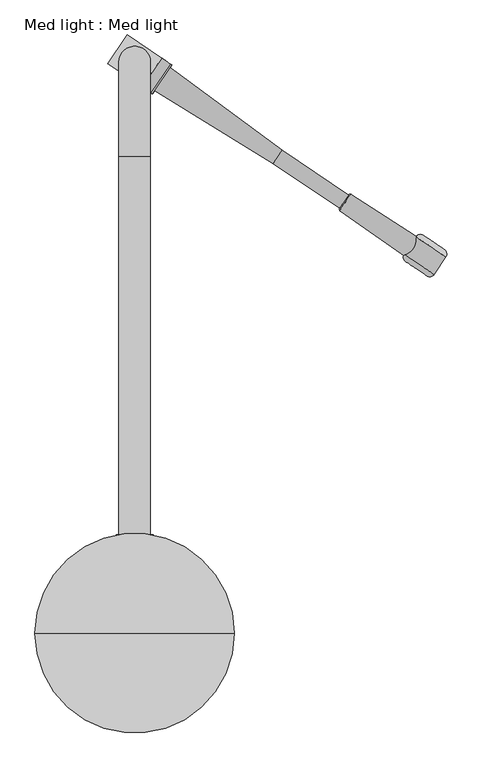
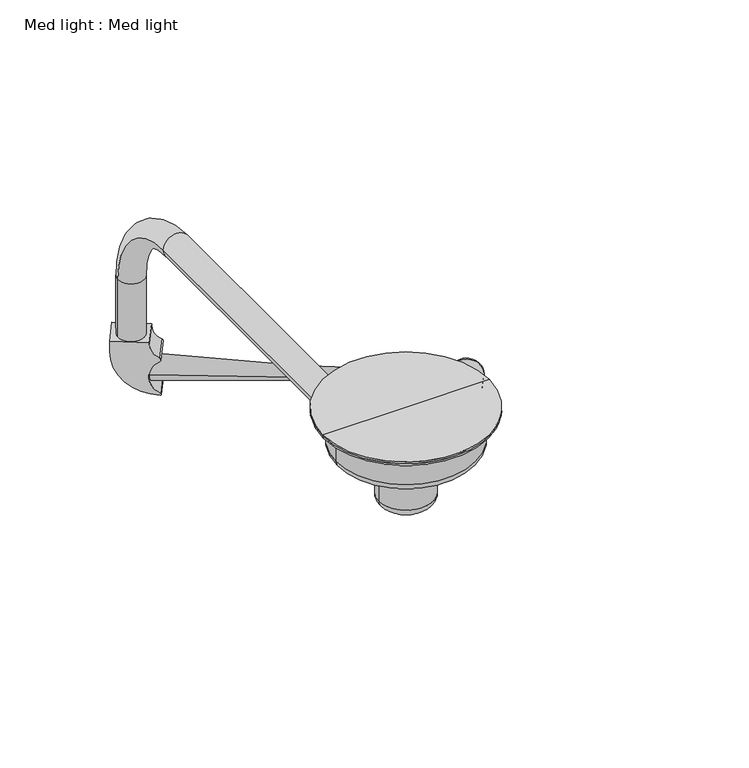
"""IFC4 building model written with IfcOpenShell, lengths in millimetres: proxy geometry, Med light : Med light."""

from ifc_helpers import new_model, si_unit, point, frame, frame_2d, origin, place, context, project, spatial, polyline, circle_curve, ellipse_curve, trimmed, segment, composite_curve, outline, extrude, source, transform, mapped, element, save
from ifc_brep_helpers import plane_surface, cylinder_surface, revolved_surface, advanced_brep


def med_light_med_light_51e73a2f(model_context):
    return source(origin(), model_context, "Body", "SolidModel", [
        advanced_brep(
        [(42.3755143, 1356.5608413, 1610.4103579), (62.0310935, 1385.7014358, 1610.4103579), (22.7199352, 1327.4202467, 1610.4103579), (680.2173635, 891.7765902, 1610.4103579), (712.2557301, 939.2754219, 1610.4103579), (696.2365468, 915.5260061, 1610.4103579), (495.4473123, 1022.020271, 1610.4103579), (522.2798126, 1061.8010887, 1610.4103579), (495.1555922, 1026.3891014, 1610.4103579), (518.1198233, 1060.4349741, 1610.4103579), (495.77199, 1027.3029487, 1610.4103579), (517.5034256, 1059.5211268, 1610.4103579), (335.0237873, 1135.7289805, 1610.4103579), (356.7552228, 1167.9471586, 1610.4103579)],
        [
            (0, 1),
            (1, 2, circle_curve(frame((42.3755143, 1356.5608413, 1610.4103579), z_axis=(-0.8290375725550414, 0.5591929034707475, 0.0), x_axis=(0.5591929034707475, 0.8290375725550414, 0.0)), 35.1499082)),
            (2, 0),
            (2, 1, circle_curve(frame((42.3755143, 1356.5608413, 1610.4103579), z_axis=(-0.8290375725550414, 0.5591929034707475, 0.0), x_axis=(0.5591929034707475, 0.8290375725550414, 0.0)), 35.1499082)),
            (3, 4, circle_curve(frame((696.2365468, 915.5260061, 1610.4103579), z_axis=(0.8290375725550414, -0.5591929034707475, 0.0), x_axis=(0.5591929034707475, 0.8290375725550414, 0.0)), 28.6469717)),
            (4, 5),
            (5, 3),
            (4, 3, circle_curve(frame((696.2365468, 915.5260061, 1610.4103579), z_axis=(0.8290375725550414, -0.5591929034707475, 0.0), x_axis=(0.5591929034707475, 0.8290375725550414, 0.0)), 28.6469717)),
            (6, 7, circle_curve(frame((508.8635624, 1041.9106798, 1610.4103579), z_axis=(0.8290375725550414, -0.5591929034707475, 0.0), x_axis=(0.5591929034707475, 0.8290375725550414, 0.0)), 23.9921681)),
            (7, 4),
            (3, 6),
            (7, 6, circle_curve(frame((508.8635624, 1041.9106798, 1610.4103579), z_axis=(0.8290375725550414, -0.5591929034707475, 0.0), x_axis=(0.5591929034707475, 0.8290375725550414, 0.0)), 23.9921681)),
            (8, 9, circle_curve(frame((506.6377078, 1043.4120377, 1610.4103579), z_axis=(0.8290375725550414, -0.5591929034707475, 0.0), x_axis=(0.5591929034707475, 0.8290375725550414, 0.0)), 20.5333714)),
            (9, 7),
            (6, 8),
            (9, 8, circle_curve(frame((506.6377078, 1043.4120377, 1610.4103579), z_axis=(0.8290375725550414, -0.5591929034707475, 0.0), x_axis=(0.5591929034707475, 0.8290375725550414, 0.0)), 20.5333714)),
            (10, 11, circle_curve(frame((506.6377078, 1043.4120377, 1610.4103579), z_axis=(0.8290375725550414, -0.5591929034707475, 0.0), x_axis=(0.5591929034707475, 0.8290375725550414, 0.0)), 19.4310723)),
            (11, 9),
            (8, 10),
            (11, 10, circle_curve(frame((506.6377078, 1043.4120377, 1610.4103579), z_axis=(0.8290375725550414, -0.5591929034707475, 0.0), x_axis=(0.5591929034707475, 0.8290375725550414, 0.0)), 19.4310723)),
            (12, 13, circle_curve(frame((345.889505, 1151.8380696, 1610.4103579), z_axis=(0.8290375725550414, -0.5591929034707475, 0.0), x_axis=(0.5591929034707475, 0.8290375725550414, 0.0)), 19.4310723)),
            (13, 11),
            (10, 12),
            (13, 12, circle_curve(frame((345.889505, 1151.8380696, 1610.4103579), z_axis=(0.8290375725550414, -0.5591929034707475, 0.0), x_axis=(0.5591929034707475, 0.8290375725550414, 0.0)), 19.4310723)),
            (1, 13),
            (12, 2),
        ],
        [
            plane_surface(frame((42.3755143, 1356.5608413, 1610.4103579), z_axis=(-0.8290375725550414, 0.5591929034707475, 0.0), x_axis=(0.5591929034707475, 0.8290375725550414, 0.0))),
            plane_surface(frame((696.2365468, 915.5260061, 1610.4103579), z_axis=(0.8290375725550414, -0.5591929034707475, 0.0), x_axis=(0.5591929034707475, 0.8290375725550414, 0.0))),
            revolved_surface(polyline([(712.2557301, 939.2754219, 1610.4103579), (522.2798126, 1061.8010887, 1610.4103579)]), (697.1352927, 914.9197943, 1610.4103579), (-0.8290375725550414, 0.5591929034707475, 0.0)),
            revolved_surface(polyline([(522.2798126, 1061.8010887, 1610.4103579), (518.1198233, 1060.4349741, 1610.4103579)]), (697.1352927, 914.9197943, 1610.4103579), (-0.8290375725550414, 0.5591929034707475, 0.0)),
            plane_surface(frame((506.6377078, 1043.4120377, 1610.4103579), z_axis=(-0.8290375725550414, 0.5591929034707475, 0.0), x_axis=(0.5591929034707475, 0.8290375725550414, 0.0))),
            cylinder_surface(frame((697.1352927, 914.9197943, 1610.4103579), z_axis=(-0.8290375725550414, 0.5591929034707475, 0.0), x_axis=(0.5591929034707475, 0.8290375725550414, 0.0)), 19.4310723),
            revolved_surface(polyline([(356.7552228, 1167.9471586, 1610.4103579), (62.0310935, 1385.7014358, 1610.4103579)]), (697.1352927, 914.9197943, 1610.4103579), (-0.8290375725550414, 0.5591929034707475, 0.0)),
        ],
        [
            (0, [[1, 2, 3]]),
            (0, [[-3, 4, -1]]),
            (1, [[5, 6, 7]]),
            (1, [[8, -7, -6]]),
            (2, [[9, 10, -5, 11]]),
            (2, [[12, -11, -8, -10]]),
            (3, [[13, 14, -9, 15]]),
            (3, [[16, -15, -12, -14]]),
            (4, [[17, 18, -13, 19]]),
            (4, [[20, -19, -16, -18]]),
            (5, [[21, 22, -17, 23]]),
            (5, [[24, -23, -20, -22]]),
            (6, [[-2, 25, -21, 26]]),
            (6, [[-4, -26, -24, -25]]),
        ],
    ),
        advanced_brep(
        [(680.8592519, 881.6679198, 1610.4103579), (655.1953575, 898.9784351, 1610.4103579), (706.5231462, 864.3574045, 1610.4103579), (749.1336455, 927.5300675, 1610.4103579), (697.8058568, 962.1510982, 1610.4103579), (723.4697511, 944.8405829, 1610.4103579), (752.5606728, 909.8995405, 1610.4103579), (680.1753297, 958.7240709, 1610.4103579), (724.1536733, 867.7844318, 1610.4103579), (651.7683302, 916.6089622, 1610.4103579)],
        [
            (0, 1),
            (1, 2, circle_curve(frame((680.8592519, 881.6679198, 1610.4103579), z_axis=(-0.5591929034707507, -0.8290375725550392, 0.0), x_axis=(-0.8290375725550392, 0.5591929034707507, 0.0)), 30.95625)),
            (2, 0),
            (2, 1, circle_curve(frame((680.8592519, 881.6679198, 1610.4103579), z_axis=(-0.5591929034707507, -0.8290375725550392, 0.0), x_axis=(-0.8290375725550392, 0.5591929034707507, 0.0)), 30.95625)),
            (3, 4, circle_curve(frame((723.4697511, 944.8405829, 1610.4103579), z_axis=(0.5591929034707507, 0.8290375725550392, 0.0), x_axis=(-0.8290375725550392, 0.5591929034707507, 0.0)), 30.95625)),
            (4, 5),
            (5, 3),
            (4, 3, circle_curve(frame((723.4697511, 944.8405829, 1610.4103579), z_axis=(0.5591929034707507, 0.8290375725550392, 0.0), x_axis=(-0.8290375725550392, 0.5591929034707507, 0.0)), 30.95625)),
            (6, 7, circle_curve(frame((716.3680013, 934.3118057, 1610.4103579), z_axis=(0.5591929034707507, 0.8290375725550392, 0.0), x_axis=(-0.8290375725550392, 0.5591929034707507, 0.0)), 43.65625)),
            (7, 4, circle_curve(frame((690.7041069, 951.622321, 1610.4103579), z_axis=(0.0, 0.0, -1.0), x_axis=(0.5591929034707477, 0.8290375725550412, 0.0)), 12.7)),
            (3, 6, circle_curve(frame((742.0318956, 917.0012904, 1610.4103579), z_axis=(0.0, 0.0, -1.0), x_axis=(0.5591929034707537, 0.8290375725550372, 0.0)), 12.7)),
            (7, 6, circle_curve(frame((716.3680013, 934.3118057, 1610.4103579), z_axis=(0.5591929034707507, 0.8290375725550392, 0.0), x_axis=(-0.8290375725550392, 0.5591929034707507, 0.0)), 43.65625)),
            (8, 9, circle_curve(frame((687.9610018, 892.196697, 1610.4103579), z_axis=(0.5591929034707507, 0.8290375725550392, 0.0), x_axis=(-0.8290375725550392, 0.5591929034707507, 0.0)), 43.65625)),
            (9, 7),
            (6, 8),
            (9, 8, circle_curve(frame((687.9610018, 892.196697, 1610.4103579), z_axis=(0.5591929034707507, 0.8290375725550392, 0.0), x_axis=(-0.8290375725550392, 0.5591929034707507, 0.0)), 43.65625)),
            (1, 9, circle_curve(frame((662.2971074, 909.5072123, 1610.4103579), z_axis=(0.0, 0.0, -1.0), x_axis=(0.5591929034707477, 0.8290375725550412, 0.0)), 12.7)),
            (8, 2, circle_curve(frame((713.6248961, 874.8861817, 1610.4103579), z_axis=(0.0, 0.0, -1.0), x_axis=(0.5591929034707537, 0.8290375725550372, 0.0)), 12.7)),
        ],
        [
            plane_surface(frame((680.8592519, 881.6679198, 1610.4103579), z_axis=(-0.5591929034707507, -0.8290375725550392, 0.0), x_axis=(-0.8290375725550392, 0.5591929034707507, 0.0))),
            plane_surface(frame((723.4697511, 944.8405829, 1610.4103579), z_axis=(0.5591929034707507, 0.8290375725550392, 0.0), x_axis=(-0.8290375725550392, 0.5591929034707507, 0.0))),
            revolved_surface(trimmed(ellipse_curve(frame((690.7041069, 951.622321, 1610.4103579), z_axis=(0.0, 0.0, 1.0), x_axis=(0.5591929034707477, 0.8290375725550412, 0.0)), 12.7, 12.7), [point((697.8058568, 962.1510982, 1610.4103579))], [point((680.1753297, 958.7240709, 1610.4103579))], True, "CARTESIAN"), (680.8592519, 881.6679198, 1610.4103579), (-0.5591929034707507, -0.8290375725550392, 0.0)),
            cylinder_surface(frame((680.8592519, 881.6679198, 1610.4103579), z_axis=(-0.5591929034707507, -0.8290375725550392, 0.0), x_axis=(-0.8290375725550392, 0.5591929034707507, 0.0)), 43.65625),
            revolved_surface(trimmed(ellipse_curve(frame((662.2971074, 909.5072123, 1610.4103579), z_axis=(0.0, 0.0, 1.0), x_axis=(0.5591929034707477, 0.8290375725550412, 0.0)), 12.7, 12.7), [point((651.7683302, 916.6089622, 1610.4103579))], [point((655.1953575, 898.9784351, 1610.4103579))], True, "CARTESIAN"), (680.8592519, 881.6679198, 1610.4103579), (-0.5591929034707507, -0.8290375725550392, 0.0)),
        ],
        [
            (0, [[1, 2, 3]]),
            (0, [[-3, 4, -1]]),
            (1, [[5, 6, 7]]),
            (1, [[8, -7, -6]]),
            (2, [[9, 10, -5, 11]]),
            (2, [[12, -11, -8, -10]]),
            (3, [[13, 14, -9, 15]]),
            (3, [[16, -15, -12, -14]]),
            (4, [[-2, 17, -13, 18]]),
            (4, [[-4, -18, -16, -17]]),
        ],
    ),
        extrude(outline(composite_curve([segment(polyline([(0.0, 88.9), (-4.9023655, 88.9), (-4.9023655, 189.4110984), (26.8476345, 189.4110984)]), True, "CONTINUOUS"), segment(trimmed(circle_curve(frame_2d((26.8476345, 62.4110984)), 127.0), [point((26.8476345, 189.4110984))], [point((153.8471224, 62.0504532))], False, "CARTESIAN"), True, "CONTINUOUS"), segment(trimmed(circle_curve(frame_2d((150.6647335, 62.107545)), 3.182901), [point((153.8471224, 62.0504532))], [point((147.8287015, 60.6626293))], False, "CARTESIAN"), True, "CONTINUOUS"), segment(trimmed(circle_curve(frame_2d((98.8999916, 35.7341867)), 54.9130759), [point((147.8287015, 60.6626293))], [point((51.3364528, 63.1778687))], True, "CARTESIAN"), True, "CONTINUOUS"), segment(trimmed(circle_curve(frame_2d((45.8363334, 66.3513821)), 6.35), [point((51.3364528, 63.1778687))], [point((40.1067917, 63.6137093))], False, "CARTESIAN"), True, "CONTINUOUS"), segment(trimmed(circle_curve(frame_2d((0.0, 44.45)), 44.45), [point((40.1067917, 63.6137093))], [point((0.0, 88.9))], True, "CARTESIAN"), True, "CONTINUOUS")], self_intersect=False)), frame((92.0787367, 1271.269771, 1709.0288263), z_axis=(0.5591929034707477, 0.8290375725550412, 0.0), x_axis=(0.0, 0.0, -1.0)), (0.0, 0.0, 1.0), 83.9681961),
        extrude(outline(composite_curve([segment(trimmed(circle_curve(frame_2d((2120.3311918, 0.0)), 44.45), [point((2120.3311918, 44.45))], [point((2120.3311918, -44.45))], False, "CARTESIAN"), True, "CONTINUOUS"), segment(trimmed(circle_curve(frame_2d((2120.3311918, 0.0)), 44.45), [point((2120.3311918, -44.45))], [point((2120.3311918, 44.45))], False, "CARTESIAN"), True, "CONTINUOUS")], self_intersect=False)), frame((0.0, 47.6748825, 0.0), z_axis=(0.0, 1.0, 0.0), x_axis=(0.0, 0.0, 1.0)), (0.0, 0.0, 1.0), 190.5),
        advanced_brep(
        [(38.1, 85.7733272, 2120.3311918), (-38.1, 85.7733272, 2120.3311918), (38.1, 1152.5733272, 2120.3311918), (-38.1, 1152.5733272, 2120.3311918), (-38.1, 1381.1733272, 1891.7311918), (38.1, 1381.1733272, 1891.7311918), (38.1, 1381.1733272, 1713.9311918), (-38.1, 1381.1733272, 1713.9311918)],
        [
            (0, 1, circle_curve(frame((0.0, 85.7733272, 2120.3311918), z_axis=(0.0, -1.0, 0.0), x_axis=(-1.0, 0.0, 0.0)), 38.1)),
            (1, 0, circle_curve(frame((0.0, 85.7733272, 2120.3311918), z_axis=(0.0, -1.0, 0.0), x_axis=(-1.0, 0.0, 0.0)), 38.1)),
            (0, 2),
            (2, 3, circle_curve(frame((0.0, 1152.5733272, 2120.3311918), z_axis=(0.0, -1.0, 0.0), x_axis=(-1.0, 0.0, 0.0)), 38.1)),
            (3, 1),
            (3, 2, circle_curve(frame((0.0, 1152.5733272, 2120.3311918), z_axis=(0.0, -1.0, 0.0), x_axis=(-1.0, 0.0, 0.0)), 38.1)),
            (4, 3, circle_curve(frame((-38.1, 1152.5733272, 1891.7311918), z_axis=(1.0, 0.0, 0.0), x_axis=(0.0, 0.0, 1.0)), 228.6)),
            (2, 5, circle_curve(frame((38.1, 1152.5733272, 1891.7311918), z_axis=(-1.0, 0.0, 0.0), x_axis=(0.0, 0.0, 1.0)), 228.6)),
            (5, 4, circle_curve(frame((0.0, 1381.1733272, 1891.7311918), z_axis=(0.0, 0.0, 1.0), x_axis=(-1.0, 0.0, 0.0)), 38.1)),
            (4, 5, circle_curve(frame((0.0, 1381.1733272, 1891.7311918), z_axis=(0.0, 0.0, 1.0), x_axis=(-1.0, 0.0, 0.0)), 38.1)),
            (6, 7, circle_curve(frame((0.0, 1381.1733272, 1713.9311918), z_axis=(0.0, 0.0, -1.0), x_axis=(-1.0, 0.0, 0.0)), 38.1)),
            (7, 6, circle_curve(frame((0.0, 1381.1733272, 1713.9311918), z_axis=(0.0, 0.0, -1.0), x_axis=(-1.0, 0.0, 0.0)), 38.1)),
            (5, 6),
            (7, 4),
        ],
        [
            plane_surface(frame((0.0, 85.7733272, 2120.3311918), z_axis=(0.0, -1.0, 0.0), x_axis=(1.0, 0.0, 0.0))),
            cylinder_surface(frame((0.0, 85.7733272, 2120.3311918), z_axis=(0.0, -1.0, 0.0), x_axis=(-1.0, 0.0, 0.0)), 38.1),
            revolved_surface(trimmed(ellipse_curve(frame((0.0, 1152.5733272, 2120.3311918), z_axis=(0.0, -1.0, 0.0), x_axis=(-1.0, 0.0, 0.0)), 38.1, 38.1), [point((38.1, 1152.5733272, 2120.3311918))], [point((-38.1, 1152.5733272, 2120.3311918))], True, "CARTESIAN"), (0.0, 1152.5733272, 1891.7311918), (-1.0, 0.0, 0.0)),
            revolved_surface(trimmed(ellipse_curve(frame((0.0, 1152.5733272, 2120.3311918), z_axis=(0.0, -1.0, 0.0), x_axis=(-1.0, 0.0, 0.0)), 38.1, 38.1), [point((-38.1, 1152.5733272, 2120.3311918))], [point((38.1, 1152.5733272, 2120.3311918))], True, "CARTESIAN"), (0.0, 1152.5733272, 1891.7311918), (-1.0, 0.0, 0.0)),
            plane_surface(frame((0.0, 1381.1733272, 1713.9311918), z_axis=(0.0, 0.0, -1.0), x_axis=(1.0, 0.0, 0.0))),
            cylinder_surface(frame((0.0, 1381.1733272, 1891.7311918), z_axis=(0.0, 0.0, 1.0), x_axis=(-1.0, 0.0, 0.0)), 38.1),
        ],
        [
            (0, [[1, 2]]),
            (1, [[-1, 3, 4, 5]]),
            (1, [[-2, -5, 6, -3]]),
            (2, [[7, -4, 8, 9]]),
            (3, [[-8, -6, -7, 10]]),
            (4, [[11, 12]]),
            (5, [[-9, 13, -12, 14]]),
            (5, [[-10, -14, -11, -13]]),
        ],
    ),
        advanced_brep(
        [(0.0, 0.0, 2324.6786024), (241.3, 0.0, 2324.6786024), (-241.3, 0.0, 2324.6786024), (-52.6505679, 0.0, 2037.0230593), (52.6505679, 0.0, 2037.0230593), (0.0, 0.0, 2037.0230593), (-79.375, 0.0, 2063.7474915), (79.375, 0.0, 2063.7474915), (-79.375, 0.0, 2191.3286024), (79.375, 0.0, 2191.3286024), (-92.075, 0.0, 2204.0286024), (92.075, 0.0, 2204.0286024), (-178.3406234, 0.0, 2204.0286024), (178.3406234, 0.0, 2204.0286024), (-203.2, 0.0, 2228.887979), (203.2, 0.0, 2228.887979), (-203.2, 0.0, 2308.8036024), (203.2, 0.0, 2308.8036024), (-230.7368294, 0.0, 2308.8036024), (230.7368294, 0.0, 2308.8036024), (-241.3, 0.0, 2319.366773), (241.3, 0.0, 2319.366773)],
        [
            (0, 1),
            (1, 2, circle_curve(frame((0.0, 0.0, 2324.6786024), z_axis=(0.0, 0.0, 1.0), x_axis=(1.0, 0.0, 0.0)), 241.3)),
            (2, 0),
            (2, 1, circle_curve(frame((0.0, 0.0, 2324.6786024), z_axis=(0.0, 0.0, 1.0), x_axis=(1.0, 0.0, 0.0)), 241.3)),
            (3, 4, circle_curve(frame((0.0, 0.0, 2037.0230593), z_axis=(0.0, 0.0, -1.0), x_axis=(1.0, 0.0, 0.0)), 52.6505679)),
            (4, 5),
            (5, 3),
            (4, 3, circle_curve(frame((0.0, 0.0, 2037.0230593), z_axis=(0.0, 0.0, -1.0), x_axis=(1.0, 0.0, 0.0)), 52.6505679)),
            (6, 7, circle_curve(frame((0.0, 0.0, 2063.7474915), z_axis=(0.0, 0.0, -1.0), x_axis=(1.0, 0.0, 0.0)), 79.375)),
            (7, 4, circle_curve(frame((52.6505679, 0.0, 2063.7474915), z_axis=(0.0, 1.0, 0.0), x_axis=(1.0, 0.0, 0.0)), 26.7244321)),
            (3, 6, circle_curve(frame((-52.6505679, 0.0, 2063.7474915), z_axis=(0.0, 1.0, 0.0), x_axis=(-1.0, 0.0, 0.0)), 26.7244321)),
            (7, 6, circle_curve(frame((0.0, 0.0, 2063.7474915), z_axis=(0.0, 0.0, -1.0), x_axis=(1.0, 0.0, 0.0)), 79.375)),
            (8, 9, circle_curve(frame((0.0, 0.0, 2191.3286024), z_axis=(0.0, 0.0, -1.0), x_axis=(1.0, 0.0, 0.0)), 79.375)),
            (9, 7),
            (6, 8),
            (9, 8, circle_curve(frame((0.0, 0.0, 2191.3286024), z_axis=(0.0, 0.0, -1.0), x_axis=(1.0, 0.0, 0.0)), 79.375)),
            (10, 11, circle_curve(frame((0.0, 0.0, 2204.0286024), z_axis=(0.0, 0.0, -1.0), x_axis=(1.0, 0.0, 0.0)), 92.075)),
            (11, 9, circle_curve(frame((92.075, 0.0, 2191.3286024), z_axis=(0.0, -1.0, 0.0), x_axis=(1.0, 0.0, 0.0)), 12.7)),
            (8, 10, circle_curve(frame((-92.075, 0.0, 2191.3286024), z_axis=(0.0, -1.0, 0.0), x_axis=(-1.0, 0.0, 0.0)), 12.7)),
            (11, 10, circle_curve(frame((0.0, 0.0, 2204.0286024), z_axis=(0.0, 0.0, -1.0), x_axis=(1.0, 0.0, 0.0)), 92.075)),
            (12, 13, circle_curve(frame((0.0, 0.0, 2204.0286024), z_axis=(0.0, 0.0, -1.0), x_axis=(1.0, 0.0, 0.0)), 178.3406234)),
            (13, 11),
            (10, 12),
            (13, 12, circle_curve(frame((0.0, 0.0, 2204.0286024), z_axis=(0.0, 0.0, -1.0), x_axis=(1.0, 0.0, 0.0)), 178.3406234)),
            (14, 15, circle_curve(frame((0.0, 0.0, 2228.887979), z_axis=(0.0, 0.0, -1.0), x_axis=(1.0, 0.0, 0.0)), 203.2)),
            (15, 13, circle_curve(frame((178.3406234, 0.0, 2228.887979), z_axis=(0.0, 1.0, 0.0), x_axis=(1.0, 0.0, 0.0)), 24.8593766)),
            (12, 14, circle_curve(frame((-178.3406234, 0.0, 2228.887979), z_axis=(0.0, 1.0, 0.0), x_axis=(-1.0, 0.0, 0.0)), 24.8593766)),
            (15, 14, circle_curve(frame((0.0, 0.0, 2228.887979), z_axis=(0.0, 0.0, -1.0), x_axis=(1.0, 0.0, 0.0)), 203.2)),
            (16, 17, circle_curve(frame((0.0, 0.0, 2308.8036024), z_axis=(0.0, 0.0, -1.0), x_axis=(1.0, 0.0, 0.0)), 203.2)),
            (17, 15),
            (14, 16),
            (17, 16, circle_curve(frame((0.0, 0.0, 2308.8036024), z_axis=(0.0, 0.0, -1.0), x_axis=(1.0, 0.0, 0.0)), 203.2)),
            (18, 19, circle_curve(frame((0.0, 0.0, 2308.8036024), z_axis=(0.0, 0.0, -1.0), x_axis=(1.0, 0.0, 0.0)), 230.7368294)),
            (19, 17),
            (16, 18),
            (19, 18, circle_curve(frame((0.0, 0.0, 2308.8036024), z_axis=(0.0, 0.0, -1.0), x_axis=(1.0, 0.0, 0.0)), 230.7368294)),
            (20, 21, circle_curve(frame((0.0, 0.0, 2319.366773), z_axis=(0.0, 0.0, -1.0), x_axis=(1.0, 0.0, 0.0)), 241.3)),
            (21, 19, circle_curve(frame((230.7368294, 0.0, 2319.366773), z_axis=(0.0, 1.0, 0.0), x_axis=(1.0, 0.0, 0.0)), 10.5631706)),
            (18, 20, circle_curve(frame((-230.7368294, 0.0, 2319.366773), z_axis=(0.0, 1.0, 0.0), x_axis=(-1.0, 0.0, 0.0)), 10.5631706)),
            (21, 20, circle_curve(frame((0.0, 0.0, 2319.366773), z_axis=(0.0, 0.0, -1.0), x_axis=(1.0, 0.0, 0.0)), 241.3)),
            (1, 21),
            (20, 2),
        ],
        [
            plane_surface(frame((0.0, 0.0, 2324.6786024), z_axis=(0.0, 0.0, 1.0), x_axis=(1.0, 0.0, 0.0))),
            plane_surface(frame((0.0, 0.0, 2037.0230593), z_axis=(0.0, 0.0, -1.0), x_axis=(1.0, 0.0, 0.0))),
            revolved_surface(trimmed(ellipse_curve(frame((52.6505679, 0.0, 2063.7474915), z_axis=(0.0, -1.0, 0.0), x_axis=(1.0, 0.0, 0.0)), 26.7244321, 26.7244321), [point((52.6505679, 0.0, 2037.0230593))], [point((79.375, 0.0, 2063.7474915))], True, "CARTESIAN"), (0.0, 0.0, 2609.0581012), (0.0, 0.0, 1.0)),
            cylinder_surface(frame((0.0, 0.0, 2609.0581012), z_axis=(0.0, 0.0, 1.0), x_axis=(1.0, 0.0, 0.0)), 79.375),
            revolved_surface(trimmed(ellipse_curve(frame((92.075, 0.0, 2191.3286024), z_axis=(0.0, 1.0, 0.0), x_axis=(1.0, 0.0, 0.0)), 12.7, 12.7), [point((79.375, 0.0, 2191.3286024))], [point((92.075, 0.0, 2204.0286024))], True, "CARTESIAN"), (0.0, 0.0, 2609.0581012), (0.0, 0.0, 1.0)),
            plane_surface(frame((0.0, 0.0, 2204.0286024), z_axis=(0.0, 0.0, -1.0), x_axis=(1.0, 0.0, 0.0))),
            revolved_surface(trimmed(ellipse_curve(frame((178.3406234, 0.0, 2228.887979), z_axis=(0.0, -1.0, 0.0), x_axis=(1.0, 0.0, 0.0)), 24.8593766, 24.8593766), [point((178.3406234, 0.0, 2204.0286024))], [point((203.2, 0.0, 2228.887979))], True, "CARTESIAN"), (0.0, 0.0, 2609.0581012), (0.0, 0.0, 1.0)),
            cylinder_surface(frame((0.0, 0.0, 2609.0581012), z_axis=(0.0, 0.0, 1.0), x_axis=(1.0, 0.0, 0.0)), 203.2),
            plane_surface(frame((0.0, 0.0, 2308.8036024), z_axis=(0.0, 0.0, -1.0), x_axis=(1.0, 0.0, 0.0))),
            revolved_surface(trimmed(ellipse_curve(frame((230.7368294, 0.0, 2319.366773), z_axis=(0.0, -1.0, 0.0), x_axis=(1.0, 0.0, 0.0)), 10.5631706, 10.5631706), [point((230.7368294, 0.0, 2308.8036024))], [point((241.3, 0.0, 2319.366773))], True, "CARTESIAN"), (0.0, 0.0, 2609.0581012), (0.0, 0.0, 1.0)),
            cylinder_surface(frame((0.0, 0.0, 2609.0581012), z_axis=(0.0, 0.0, 1.0), x_axis=(1.0, 0.0, 0.0)), 241.3),
        ],
        [
            (0, [[1, 2, 3]]),
            (0, [[-3, 4, -1]]),
            (1, [[5, 6, 7]]),
            (1, [[8, -7, -6]]),
            (2, [[9, 10, -5, 11]]),
            (2, [[12, -11, -8, -10]]),
            (3, [[13, 14, -9, 15]]),
            (3, [[16, -15, -12, -14]]),
            (4, [[17, 18, -13, 19]]),
            (4, [[20, -19, -16, -18]]),
            (5, [[21, 22, -17, 23]]),
            (5, [[24, -23, -20, -22]]),
            (6, [[25, 26, -21, 27]]),
            (6, [[28, -27, -24, -26]]),
            (7, [[29, 30, -25, 31]]),
            (7, [[32, -31, -28, -30]]),
            (8, [[33, 34, -29, 35]]),
            (8, [[36, -35, -32, -34]]),
            (9, [[37, 38, -33, 39]]),
            (9, [[40, -39, -36, -38]]),
            (10, [[-2, 41, -37, 42]]),
            (10, [[-4, -42, -40, -41]]),
        ],
    ),
    ])


if __name__ == "__main__":
    model = new_model("IFC4")
    model_context = context("Model", 3, world=origin())
    ifc_project = project(units=[si_unit("LENGTHUNIT", "METRE", prefix="MILLI")], contexts=[model_context])
    site = spatial("IfcSite", under=ifc_project)
    building = spatial("IfcBuilding", under=site)
    placement = place(None, origin())
    med_light_med_light_shape = med_light_med_light_51e73a2f(model_context)
    element("IfcBuildingElementProxy", 1, Name="Med light : Med light", ObjectType="Med light : Med light", at=placement, inside=building, context=model_context, shape_type="MappedRepresentation", body=[
        mapped(med_light_med_light_shape, transform((0.0, 0.0, 0.0), x_axis=(1.0, 0.0, 0.0), y_axis=(0.0, 1.0, 0.0), z_axis=(0.0, 0.0, 1.0))),
    ])
    save(model, "model.ifc")
